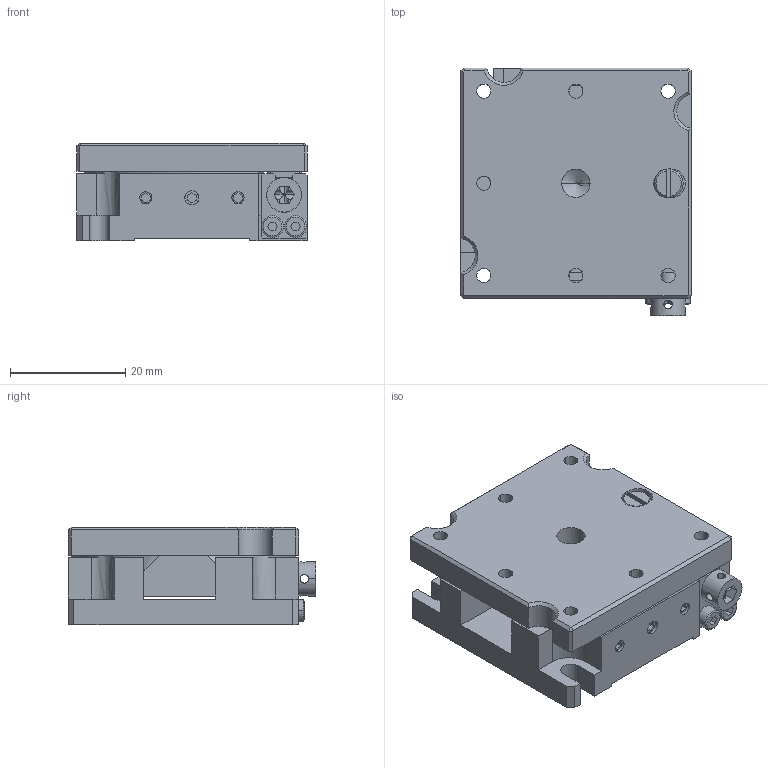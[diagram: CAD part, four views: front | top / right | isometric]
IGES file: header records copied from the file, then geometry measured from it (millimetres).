
Global section: file name: No Iges File Name specified; native system: AutoDesk Inventor R11.0; preprocessor: AutoDesk Inventor Iges Exporter R11.0; author: No Author specified; organization: No Organization specified; date: 20071016.125536; units: millimetre
Bounding box: 40.04 x 43 x 17 mm (x, y, z)
Volume: 21217.8 mm3; surface area: 12067.1 mm2
Topology: 8 solids, 8 shells, 392 faces, 1028 edges, 654 vertices
Faces by surface type: plane 224, bspline 56, revolution 40, cylinder 37, cone 35
